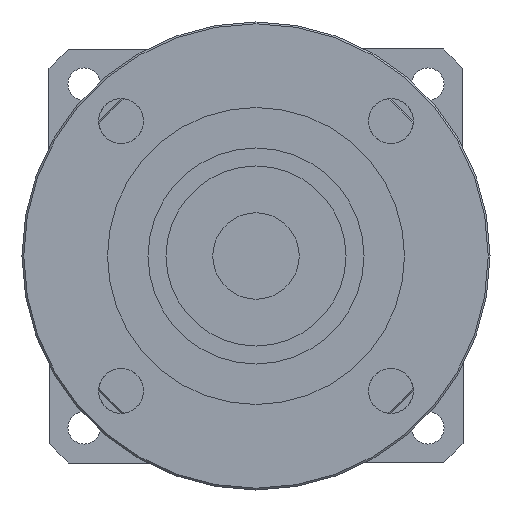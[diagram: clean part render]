
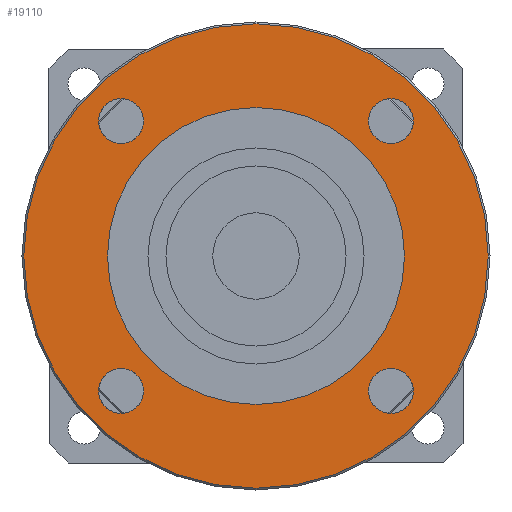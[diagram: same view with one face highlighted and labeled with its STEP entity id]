
A CAD part, left-side view. The second image highlights one B-rep face of the part: STEP entity #19110.
In plain terms, the highlighted planar face has unit normal (-1, 0, 0) as drawn and (0, 0, -1) by its records, which use the part's own axes.
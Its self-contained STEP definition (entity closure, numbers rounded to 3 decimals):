
#18030=CARTESIAN_POINT('',(37.477,-43.727,-133.5));
#18040=VERTEX_POINT('',#18030);
#18070=CARTESIAN_POINT('',(37.477,-37.477,-133.5));
#18080=DIRECTION('',(0.,0.,-1.));
#18090=DIRECTION('',(0.,-1.,0.));
#18100=AXIS2_PLACEMENT_3D('',#18070,#18080,#18090);
#18110=CIRCLE('',#18100,6.25);
#18120=CARTESIAN_POINT('',(37.477,-31.227,-133.5));
#18130=VERTEX_POINT('',#18120);
#18140=EDGE_CURVE('',#18130,#18040,#18110,.T.);
#18260=CARTESIAN_POINT('',(0.,0.,
-133.5));
#18270=DIRECTION('',(0.,0.,-1.));
#18280=DIRECTION('',(0.,-1.,0.));
#18290=AXIS2_PLACEMENT_3D('',#18260,#18270,#18280);
#18300=PLANE('',#18290);
#18310=CARTESIAN_POINT('',(-37.477,37.477,-133.5));
#18320=DIRECTION('',(0.,0.,-1.));
#18330=DIRECTION('',(0.,-1.,0.));
#18340=AXIS2_PLACEMENT_3D('',#18310,#18320,#18330);
#18350=CIRCLE('',#18340,6.25);
#18360=CARTESIAN_POINT('',(-37.477,31.227,-133.5));
#18370=VERTEX_POINT('',#18360);
#18380=CARTESIAN_POINT('',(-37.477,43.727,-133.5));
#18390=VERTEX_POINT('',#18380);
#18400=EDGE_CURVE('',#18370,#18390,#18350,.T.);
#18410=ORIENTED_EDGE('',*,*,#18400,.F.);
#18420=EDGE_CURVE('',#18390,#18370,#18350,.T.);
#18430=ORIENTED_EDGE('',*,*,#18420,.F.);
#18440=EDGE_LOOP('',(#18430,#18410));
#18450=FACE_BOUND('',#18440,.T.);
#18460=CARTESIAN_POINT('',(37.477,37.477,-133.5));
#18470=DIRECTION('',(0.,0.,-1.));
#18480=DIRECTION('',(0.,-1.,0.));
#18490=AXIS2_PLACEMENT_3D('',#18460,#18470,#18480);
#18500=CIRCLE('',#18490,6.25);
#18510=CARTESIAN_POINT('',(37.477,31.227,-133.5));
#18520=VERTEX_POINT('',#18510);
#18530=CARTESIAN_POINT('',(37.477,43.727,-133.5));
#18540=VERTEX_POINT('',#18530);
#18550=EDGE_CURVE('',#18520,#18540,#18500,.T.);
#18560=ORIENTED_EDGE('',*,*,#18550,.F.);
#18570=EDGE_CURVE('',#18540,#18520,#18500,.T.);
#18580=ORIENTED_EDGE('',*,*,#18570,.F.);
#18590=EDGE_LOOP('',(#18580,#18560));
#18600=FACE_BOUND('',#18590,.T.);
#18610=EDGE_CURVE('',#18040,#18130,#18110,.T.);
#18620=ORIENTED_EDGE('',*,*,#18610,.F.);
#18630=ORIENTED_EDGE('',*,*,#18140,.F.);
#18640=EDGE_LOOP('',(#18630,#18620));
#18650=FACE_BOUND('',#18640,.T.);
#18660=CARTESIAN_POINT('',(-37.477,-37.477,-133.5));
#18670=DIRECTION('',(0.,0.,-1.));
#18680=DIRECTION('',(0.,-1.,0.));
#18690=AXIS2_PLACEMENT_3D('',#18660,#18670,#18680);
#18700=CIRCLE('',#18690,6.25);
#18710=CARTESIAN_POINT('',(-37.477,-43.727,-133.5));
#18720=VERTEX_POINT('',#18710);
#18730=CARTESIAN_POINT('',(-37.477,-31.227,-133.5));
#18740=VERTEX_POINT('',#18730);
#18750=EDGE_CURVE('',#18720,#18740,#18700,.T.);
#18760=ORIENTED_EDGE('',*,*,#18750,.F.);
#18770=EDGE_CURVE('',#18740,#18720,#18700,.T.);
#18780=ORIENTED_EDGE('',*,*,#18770,.F.);
#18790=EDGE_LOOP('',(#18780,#18760));
#18800=FACE_BOUND('',#18790,.T.);
#18810=CARTESIAN_POINT('',(0.,0.,
-133.5));
#18820=DIRECTION('',(0.,0.,-1.));
#18830=DIRECTION('',(0.,-1.,0.));
#18840=AXIS2_PLACEMENT_3D('',#18810,#18820,#18830);
#18850=CIRCLE('',#18840,64.5);
#18860=CARTESIAN_POINT('',(0.,-64.5,-133.5));
#18870=VERTEX_POINT('',#18860);
#18880=CARTESIAN_POINT('',(0.,64.5,-133.5));
#18890=VERTEX_POINT('',#18880);
#18900=EDGE_CURVE('',#18870,#18890,#18850,.T.);
#18910=ORIENTED_EDGE('',*,*,#18900,.T.);
#18920=EDGE_CURVE('',#18890,#18870,#18850,.T.);
#18930=ORIENTED_EDGE('',*,*,#18920,.T.);
#18940=EDGE_LOOP('',(#18930,#18910));
#18950=FACE_OUTER_BOUND('',#18940,.T.);
#18960=CARTESIAN_POINT('',(0.,0.,
-133.5));
#18970=DIRECTION('',(0.,0.,1.));
#18980=DIRECTION('',(0.,-1.,0.));
#18990=AXIS2_PLACEMENT_3D('',#18960,#18970,#18980);
#19000=CIRCLE('',#18990,41.25);
#19010=CARTESIAN_POINT('',(0.,-41.25,-133.5));
#19020=VERTEX_POINT('',#19010);
#19030=CARTESIAN_POINT('',(0.,41.25,-133.5));
#19040=VERTEX_POINT('',#19030);
#19050=EDGE_CURVE('',#19020,#19040,#19000,.T.);
#19060=ORIENTED_EDGE('',*,*,#19050,.T.);
#19070=EDGE_CURVE('',#19040,#19020,#19000,.T.);
#19080=ORIENTED_EDGE('',*,*,#19070,.T.);
#19090=EDGE_LOOP('',(#19080,#19060));
#19100=FACE_BOUND('',#19090,.T.);
#19110=ADVANCED_FACE('',(#18450,#18600,#18650,#18800,#18950,#19100),
#18300,.T.);
